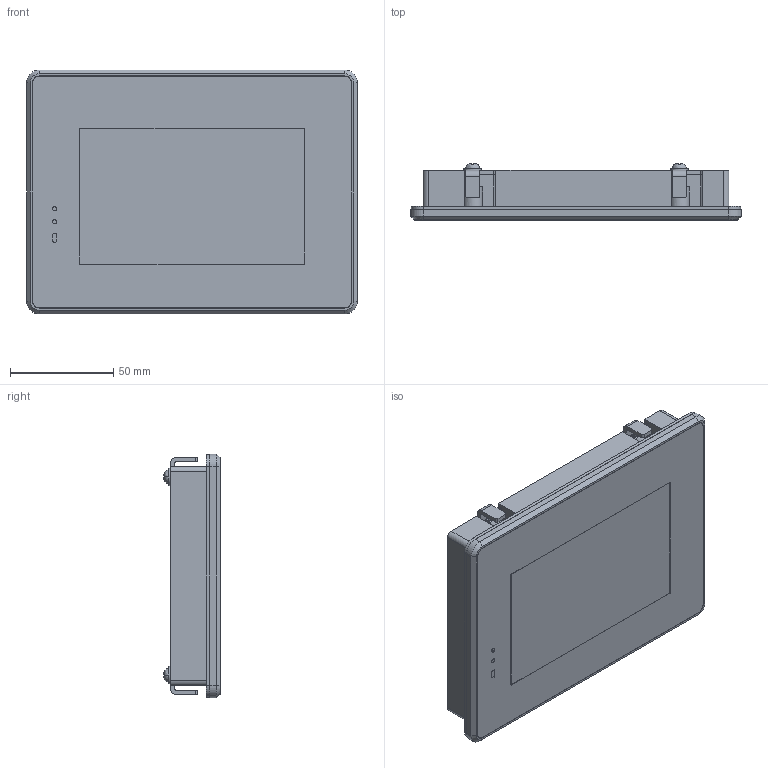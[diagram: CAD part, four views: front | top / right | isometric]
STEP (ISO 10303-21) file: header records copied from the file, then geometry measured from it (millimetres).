
FILE_DESCRIPTION((''),'2;1');
FILE_NAME('DMG80480T050-A5WTR-240626-JG','2024-06-26T',('Administrator'),(''),'PRO/ENGINEER BY PARAMETRIC TECHNOLOGY CORPORATION, 2014320','PRO/ENGINEER BY PARAMETRIC TECHNOLOGY CORPORATION, 2014320','');
FILE_SCHEMA(('CONFIG_CONTROL_DESIGN','SHAPE_APPEARANCE_LAYERS_GROUPS'));
Products named in the file (1): DMG80480T050-A5WTR-240626-JG
Bounding box: 160 x 27.2 x 118 mm (x, y, z)
Volume: 172060.6 mm3; surface area: 188301 mm2
Topology: 1 solids, 11 shells, 2005 faces, 5663 edges, 3730 vertices
Faces by surface type: plane 1361, cylinder 600, bspline 24, torus 16, cone 4
Entity records: 74694 total; most frequent: CARTESIAN_POINT 18284, ORIENTED_EDGE 11326, DIRECTION 10775, EDGE_CURVE 5663, VECTOR 4183, LINE 4183, VERTEX_POINT 3730, AXIS2_PLACEMENT_3D 3296
